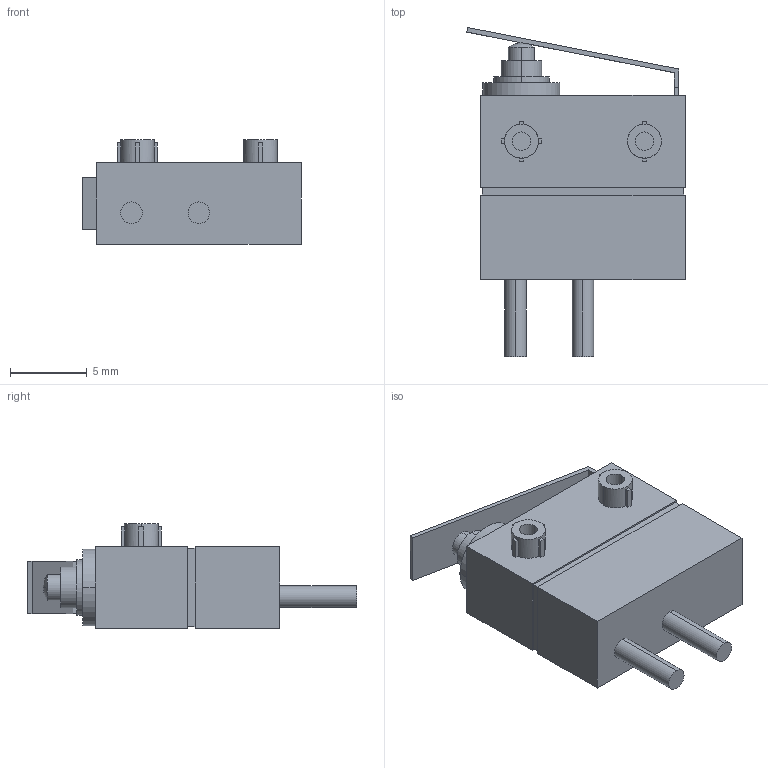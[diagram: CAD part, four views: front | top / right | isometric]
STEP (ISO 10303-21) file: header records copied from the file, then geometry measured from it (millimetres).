
FILE_DESCRIPTION (( 'STEP AP214' ), '1' );
FILE_NAME ('D2AW_R5_EL063MP.step', '2024-05-17T05:53:55', ( 'OSMC1.0 ' ), ( ' ' ), 'SwSTEP 2.0', 'SolidWorks 2002025', '' );
FILE_SCHEMA (( 'AUTOMOTIVE_DESIGN' ));
Length unit declared in the file: millimetre
Products named in the file (4): D2AW_R5_EL063MP; D2AW_R5_EL063MP_BUTTON; D2AW_R5_EL063MP_BASE; D2AW_R5_EL063MP_ACTUATOR
Assembly tree (3 placements, depth 2):
  D2AW_R5_EL063MP
    D2AW_R5_EL063MP_BUTTON
    D2AW_R5_EL063MP_BASE
    D2AW_R5_EL063MP_ACTUATOR
Bounding box: 14.2 x 21.4 x 6.8 mm (x, y, z)
Volume: 896.9 mm3; surface area: 945.5 mm2
Topology: 3 solids, 3 shells, 96 faces, 232 edges, 155 vertices
Faces by surface type: plane 72, cylinder 22, sphere 2
Entity records: 3068 total; most frequent: DIRECTION 496, CARTESIAN_POINT 489, ORIENTED_EDGE 464, EDGE_CURVE 232, LINE 172, VECTOR 172, AXIS2_PLACEMENT_3D 162, VERTEX_POINT 155
